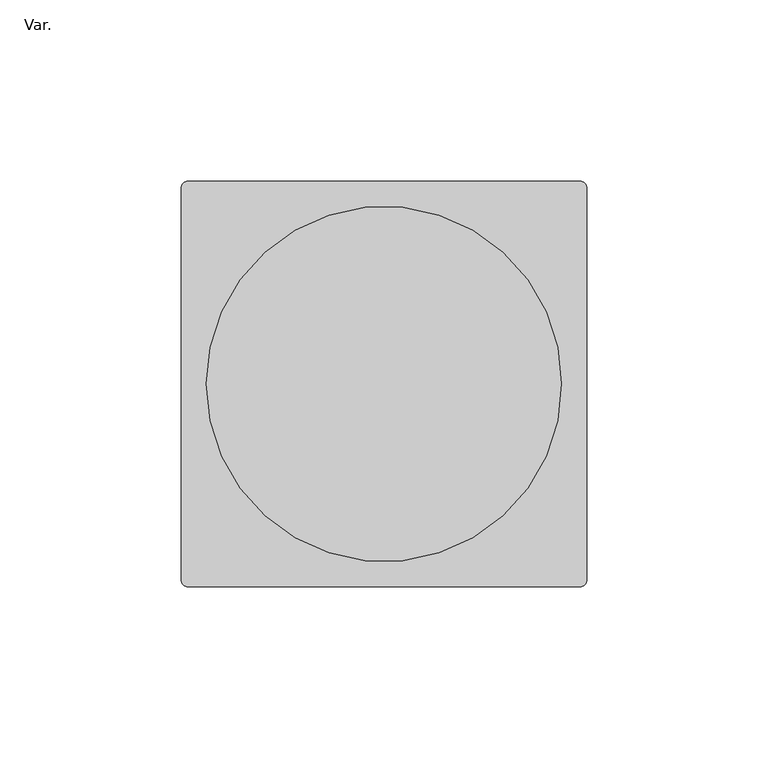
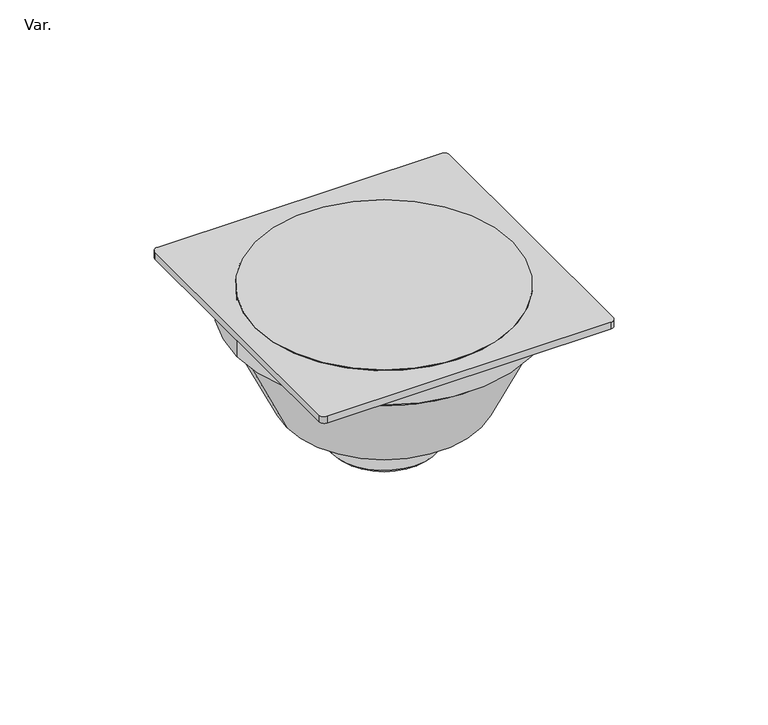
"""IFC4 building model written with IfcOpenShell, lengths in millimetres: pipe fitting geometry, AmancoWavin_ConexõesdeTubos_EsgotoZNãoUsarRaloSifonadoQuadrado(Corpo Conico) : Var.."""

from ifc_helpers import new_model, si_unit, point, frame, frame_2d, origin, origin_2d, place, context, project, spatial, polyline, circle_curve, trimmed, segment, composite_curve, outline, extrude, source, transform, mapped, element, save
from ifc_brep_helpers import plane_surface, cylinder_surface, revolved_surface, advanced_brep


def var_7808e819(model_context):
    return source(origin(), model_context, "Body", "SolidModel", [
        extrude(outline(composite_curve([segment(trimmed(circle_curve(origin_2d(), 49.0), [point((-49.0, 0.0))], [point((49.0, 0.0))], False, "CARTESIAN"), True, "CONTINUOUS"), segment(trimmed(circle_curve(origin_2d(), 49.0), [point((49.0, 0.0))], [point((-49.0, 0.0))], False, "CARTESIAN"), True, "CONTINUOUS")], self_intersect=False)), frame((0.0, 0.0, 41.8), z_axis=(0.0, 0.0, 1.0), x_axis=(1.0, 0.0, 0.0)), (0.0, 0.0, 1.0), 2.7),
        extrude(outline(composite_curve([segment(trimmed(circle_curve(frame_2d((54.0, 54.0)), 2.0), [point((54.0, 56.0))], [point((56.0, 54.0))], False, "CARTESIAN"), True, "CONTINUOUS"), segment(polyline([(56.0, 54.0), (56.0, -54.0)]), True, "CONTINUOUS"), segment(trimmed(circle_curve(frame_2d((54.0, -54.0)), 2.0), [point((56.0, -54.0))], [point((54.0, -56.0))], False, "CARTESIAN"), True, "CONTINUOUS"), segment(polyline([(54.0, -56.0), (-54.0, -56.0)]), True, "CONTINUOUS"), segment(trimmed(circle_curve(frame_2d((-54.0, -54.0)), 2.0), [point((-54.0, -56.0))], [point((-56.0, -54.0))], False, "CARTESIAN"), True, "CONTINUOUS"), segment(polyline([(-56.0, -54.0), (-56.0, 54.0)]), True, "CONTINUOUS"), segment(trimmed(circle_curve(frame_2d((-54.0, 54.0)), 2.0), [point((-56.0, 54.0))], [point((-54.0, 56.0))], False, "CARTESIAN"), True, "CONTINUOUS"), segment(polyline([(-54.0, 56.0), (54.0, 56.0)]), True, "CONTINUOUS")], self_intersect=False), holes=[composite_curve([segment(trimmed(circle_curve(origin_2d(), 49.0), [point((-49.0, 0.0))], [point((49.0, 0.0))], True, "CARTESIAN"), True, "CONTINUOUS"), segment(trimmed(circle_curve(origin_2d(), 49.0), [point((49.0, 0.0))], [point((-49.0, 0.0))], True, "CARTESIAN"), True, "CONTINUOUS")], self_intersect=False)]), frame((0.0, 0.0, 41.8), z_axis=(0.0, 0.0, 1.0), x_axis=(1.0, 0.0, 0.0)), (0.0, 0.0, 1.0), 2.7),
        advanced_brep(
        [(56.0, 0.0, 35.3), (-56.0, 0.0, 35.3), (-56.0, 0.0, 41.8), (56.0, 0.0, 41.8), (52.0, 0.0, 35.3), (-52.0, 0.0, 35.3), (52.0, 0.0, 32.1676038), (-52.0, 0.0, 32.1676038), (37.0, 0.0, 0.0), (-37.0, 0.0, 0.0), (20.0, 0.0, 0.0), (-20.0, 0.0, 0.0), (20.0, 0.0, -16.2), (-20.0, 0.0, -16.2), (18.2, 0.0, -18.0), (-18.2, 0.0, -18.0), (18.2, 0.0, 0.0), (-18.2, 0.0, 0.0), (0.0, 0.0, 0.0), (0.0, 0.0, 41.8)],
        [
            (0, 1, circle_curve(frame((0.0, 0.0, 35.3), z_axis=(0.0, 0.0, 1.0), x_axis=(-1.0, 0.0, 0.0)), 56.0)),
            (1, 2),
            (2, 3, circle_curve(frame((0.0, 0.0, 41.8), z_axis=(0.0, 0.0, -1.0), x_axis=(-1.0, 0.0, 0.0)), 56.0)),
            (3, 0),
            (1, 0, circle_curve(frame((0.0, 0.0, 35.3), z_axis=(0.0, 0.0, 1.0), x_axis=(-1.0, 0.0, 0.0)), 56.0)),
            (3, 2, circle_curve(frame((0.0, 0.0, 41.8), z_axis=(0.0, 0.0, -1.0), x_axis=(-1.0, 0.0, 0.0)), 56.0)),
            (4, 5, circle_curve(frame((0.0, 0.0, 35.3), z_axis=(0.0, 0.0, 1.0), x_axis=(-1.0, 0.0, 0.0)), 52.0)),
            (5, 1),
            (0, 4),
            (5, 4, circle_curve(frame((0.0, 0.0, 35.3), z_axis=(0.0, 0.0, 1.0), x_axis=(-1.0, 0.0, 0.0)), 52.0)),
            (6, 7, circle_curve(frame((0.0, 0.0, 32.1676038), z_axis=(0.0, 0.0, 1.0), x_axis=(-1.0, 0.0, 0.0)), 52.0)),
            (7, 5),
            (4, 6),
            (7, 6, circle_curve(frame((0.0, 0.0, 32.1676038), z_axis=(0.0, 0.0, 1.0), x_axis=(-1.0, 0.0, 0.0)), 52.0)),
            (8, 9, circle_curve(frame((0.0, 0.0, 0.0), z_axis=(0.0, 0.0, 1.0), x_axis=(-1.0, 0.0, 0.0)), 37.0)),
            (9, 7),
            (6, 8),
            (9, 8, circle_curve(frame((0.0, 0.0, 0.0), z_axis=(0.0, 0.0, 1.0), x_axis=(-1.0, 0.0, 0.0)), 37.0)),
            (10, 11, circle_curve(frame((0.0, 0.0, 0.0), z_axis=(0.0, 0.0, 1.0), x_axis=(-1.0, 0.0, 0.0)), 20.0)),
            (11, 9),
            (8, 10),
            (11, 10, circle_curve(frame((0.0, 0.0, 0.0), z_axis=(0.0, 0.0, 1.0), x_axis=(-1.0, 0.0, 0.0)), 20.0)),
            (12, 13, circle_curve(frame((0.0, 0.0, -16.2), z_axis=(0.0, 0.0, 1.0), x_axis=(-1.0, 0.0, 0.0)), 20.0)),
            (13, 11),
            (10, 12),
            (13, 12, circle_curve(frame((0.0, 0.0, -16.2), z_axis=(0.0, 0.0, 1.0), x_axis=(-1.0, 0.0, 0.0)), 20.0)),
            (14, 15, circle_curve(frame((0.0, 0.0, -18.0), z_axis=(0.0, 0.0, 1.0), x_axis=(-1.0, 0.0, 0.0)), 18.2)),
            (15, 13),
            (12, 14),
            (15, 14, circle_curve(frame((0.0, 0.0, -18.0), z_axis=(0.0, 0.0, 1.0), x_axis=(-1.0, 0.0, 0.0)), 18.2)),
            (16, 17, circle_curve(frame((0.0, 0.0, 0.0), z_axis=(0.0, 0.0, 1.0), x_axis=(-1.0, 0.0, 0.0)), 18.2)),
            (17, 15),
            (14, 16),
            (17, 16, circle_curve(frame((0.0, 0.0, 0.0), z_axis=(0.0, 0.0, 1.0), x_axis=(-1.0, 0.0, 0.0)), 18.2)),
            (18, 17),
            (16, 18),
            (2, 19),
            (19, 3),
        ],
        [
            cylinder_surface(frame((0.0, 0.0, 2211.6150031), z_axis=(0.0, 0.0, -1.0), x_axis=(-1.0, 0.0, 0.0)), 56.0),
            plane_surface(frame((0.0, 0.0, 35.3), z_axis=(0.0, 0.0, -1.0), x_axis=(-1.0, 0.0, 0.0))),
            cylinder_surface(frame((0.0, 0.0, 2211.6150031), z_axis=(0.0, 0.0, -1.0), x_axis=(-1.0, 0.0, 0.0)), 52.0),
            revolved_surface(polyline([(-52.0, 0.0, 32.1676038), (-37.0, 0.0, 0.0)]), (0.0, 0.0, 2211.6150031), (0.0, 0.0, -1.0)),
            plane_surface(frame((0.0, 0.0, 0.0), z_axis=(0.0, 0.0, -1.0), x_axis=(-1.0, 0.0, 0.0))),
            cylinder_surface(frame((0.0, 0.0, 2211.6150031), z_axis=(0.0, 0.0, -1.0), x_axis=(-1.0, 0.0, 0.0)), 20.0),
            revolved_surface(polyline([(-20.0, 0.0, -16.2), (-18.2, 0.0, -18.0)]), (0.0, 0.0, 2211.6150031), (0.0, 0.0, -1.0)),
            revolved_surface(polyline([(-18.2, 0.0, -18.0), (-18.2, 0.0, 0.0)]), (0.0, 0.0, 2211.6150031), (0.0, 0.0, -1.0)),
            plane_surface(frame((0.0, 0.0, 41.8), z_axis=(0.0, 0.0, 1.0), x_axis=(-1.0, 0.0, 0.0))),
        ],
        [
            (0, [[1, 2, 3, 4]]),
            (0, [[5, -4, 6, -2]]),
            (1, [[7, 8, -1, 9]]),
            (1, [[10, -9, -5, -8]]),
            (2, [[11, 12, -7, 13]]),
            (2, [[14, -13, -10, -12]]),
            (3, [[15, 16, -11, 17]]),
            (3, [[18, -17, -14, -16]]),
            (4, [[19, 20, -15, 21]]),
            (4, [[22, -21, -18, -20]]),
            (5, [[23, 24, -19, 25]]),
            (5, [[26, -25, -22, -24]]),
            (6, [[27, 28, -23, 29]]),
            (6, [[30, -29, -26, -28]]),
            (7, [[31, 32, -27, 33]]),
            (7, [[34, -33, -30, -32]]),
            (4, [[35, -31, 36]]),
            (4, [[-36, -34, -35]]),
            (8, [[-3, 37, 38]]),
            (8, [[-6, -38, -37]]),
        ],
    ),
    ])


if __name__ == "__main__":
    model = new_model("IFC4")
    model_context = context("Model", 3, world=origin())
    ifc_project = project(units=[si_unit("LENGTHUNIT", "METRE", prefix="MILLI")], contexts=[model_context])
    site = spatial("IfcSite", under=ifc_project)
    building = spatial("IfcBuilding", under=site)
    placement = place(None, origin())
    var_shape = var_7808e819(model_context)
    element("IfcPipeFitting", 1, ObjectType="AmancoWavin_ConexõesdeTubos_EsgotoZNãoUsarRaloSifonadoQuadrado(Corpo Conico) : Var.", at=placement, inside=building, context=model_context, shape_type="MappedRepresentation", body=[
        mapped(var_shape, transform((0.0, 0.0, 0.0), x_axis=(1.0, 0.0, 0.0), y_axis=(0.0, 1.0, 0.0), z_axis=(0.0, 0.0, 1.0))),
    ])
    save(model, "model.ifc")
